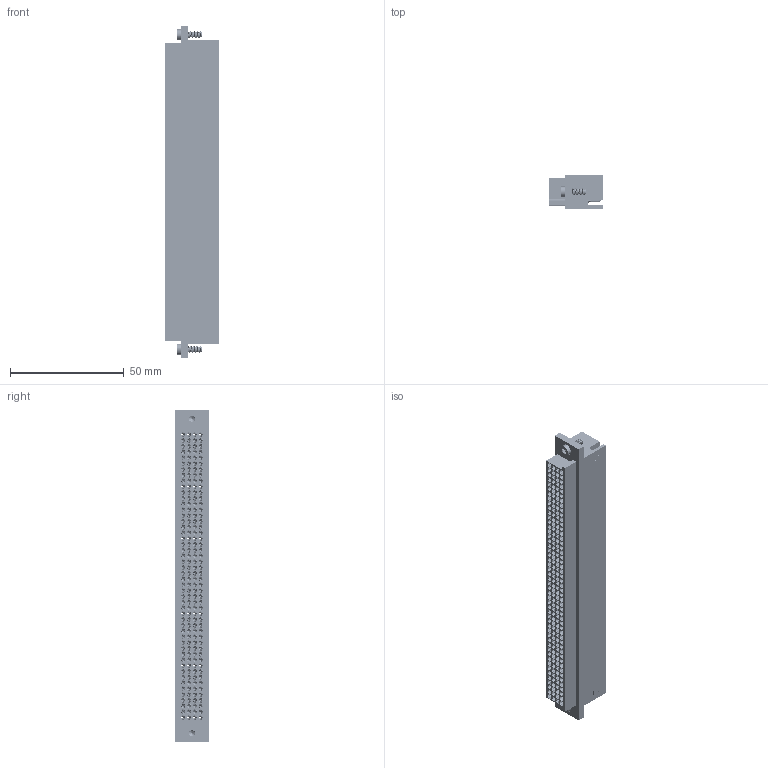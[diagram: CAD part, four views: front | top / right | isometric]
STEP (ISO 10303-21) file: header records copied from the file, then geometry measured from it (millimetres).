
FILE_DESCRIPTION((''),'2;1');
FILE_NAME('C:\copy my documents\Inventor\web site project\Receiver Modules\562445-RevA-STP.stp','2013-03-07T14:38:42',('davecooper'),(''),'Autodesk Inventor 2011','Autodesk Inventor 2011','');
FILE_SCHEMA(('CONFIG_CONTROL_DESIGN'));
Length unit declared in the file: inch
Products named in the file (5): 562445-CU; 562445; 5516676; 562152-AN; 440E45
Assembly tree (204 placements, depth 3):
  562445-CU
    562445
      5516676
      562152-AN  x200
      440E45  x2
Bounding box: 23.93 x 14.86 x 146.05 mm (x, y, z)
Volume: 24758.3 mm3; surface area: 71955.6 mm2
Topology: 203 solids, 203 shells, 15695 faces, 45088 edges, 29658 vertices
Faces by surface type: cylinder 5416, plane 5017, bspline 2656, torus 1400, cone 1206
Full cylindrical faces by diameter (mm): 1.778 x200, 2.286 x200, 2.311 x200, 3.099 x2, 4.648 x2, 5.207 x2
Entity records: 51058 total; most frequent: CARTESIAN_POINT 13253, DIRECTION 7242, ORIENTED_EDGE 6434, EDGE_CURVE 3217, EDGE_LOOP 3216, AXIS2_PLACEMENT_3D 2956, VERTEX_POINT 2547, FACE_OUTER_BOUND 1739
